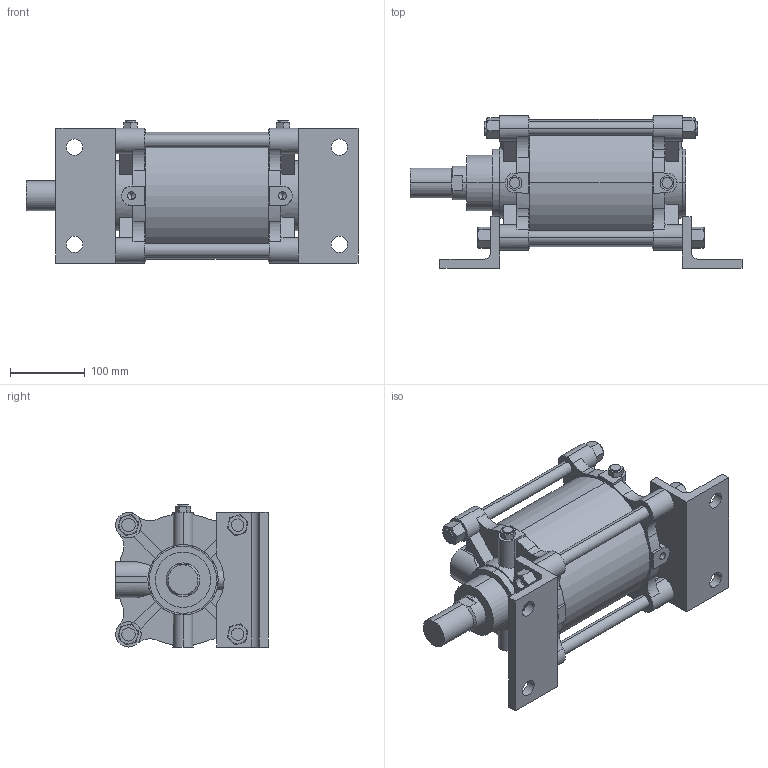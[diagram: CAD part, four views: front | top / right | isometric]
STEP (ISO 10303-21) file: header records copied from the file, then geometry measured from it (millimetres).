
FILE_DESCRIPTION (( 'STEP AP203' ), '1' );
FILE_NAME ('A##2-160#-100-L.STEP', '2016-03-31T06:56:14', ( '' ), ( '' ), 'SwSTEP 2.0', 'SolidWorks 2014', '' );
FILE_SCHEMA (( 'CONFIG_CONTROL_DESIGN' ));
Length unit declared in the file: millimetre
Products named in the file (7): A##2-160#-100-L; A160-A; A160-L; A160-B; A160-100
Assembly tree (17 placements, depth 2):
  A##2-160#-100-L
    A160-B
    A160-100
    A160-A
    (unnamed)  x8
    (unnamed)  x4
    A160-L  x2
Bounding box: 444 x 204 x 190 mm (x, y, z)
Volume: 6515345 mm3; surface area: 576934.6 mm2
Topology: 17 solids, 19 shells, 422 faces, 1068 edges, 684 vertices
Faces by surface type: plane 216, cylinder 144, torus 48, cone 14
Entity records: 10306 total; most frequent: CARTESIAN_POINT 2098, DIRECTION 1591, ORIENTED_EDGE 1470, EDGE_CURVE 735, AXIS2_PLACEMENT_3D 611, VERTEX_POINT 484, LINE 369, VECTOR 369
